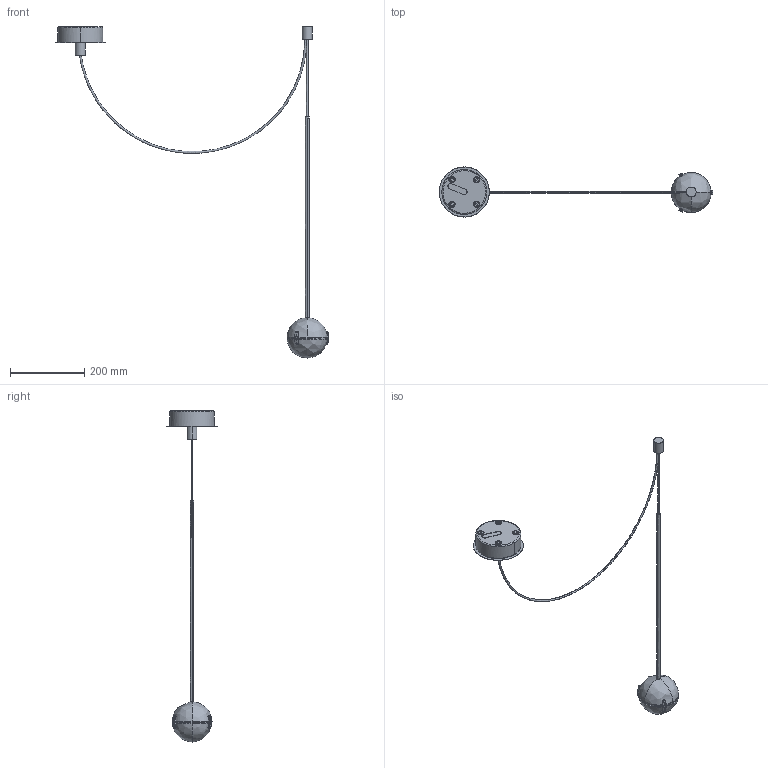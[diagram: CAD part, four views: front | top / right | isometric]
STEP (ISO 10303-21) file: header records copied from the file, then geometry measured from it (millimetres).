
FILE_DESCRIPTION(/* description */ (''),/* implementation_level */ '2;1');
FILE_NAME(/* name */ 'CINI&N~2',/* time_stamp */ '2016-09-01T17:45:03+02:00',/* author */ (''),/* organization */ (''),/* preprocessor_version */ 'ST-DEVELOPER v15',/* originating_system */ '',/* authorisation */ '');
FILE_SCHEMA (('CONFIG_CONTROL_DESIGN'));
Length unit declared in the file: millimetre
Products named in the file (2): CONVIVIO_NEW_LED_SOPRATAVOLO_DE_ASM; CONVIVIO_NEW_LED_SOPRATAVOLO_DE
Assembly tree (1 placements, depth 2):
  CONVIVIO_NEW_LED_SOPRATAVOLO_DE_ASM
    CONVIVIO_NEW_LED_SOPRATAVOLO_DE
Bounding box: 737.64 x 134.95 x 895.68 mm (x, y, z)
Surface area: 127488 mm2 (no closed solid volume)
Topology: 0 solids, 1 shells, 181 faces, 476 edges, 293 vertices
Faces by surface type: bspline 129, plane 52
Entity records: 11073 total; most frequent: CARTESIAN_POINT 8254, ORIENTED_EDGE 914, EDGE_CURVE 466, VERTEX_POINT 293, B_SPLINE_CURVE_WITH_KNOTS 221, EDGE_LOOP 196, ADVANCED_FACE 181, FACE_OUTER_BOUND 181
